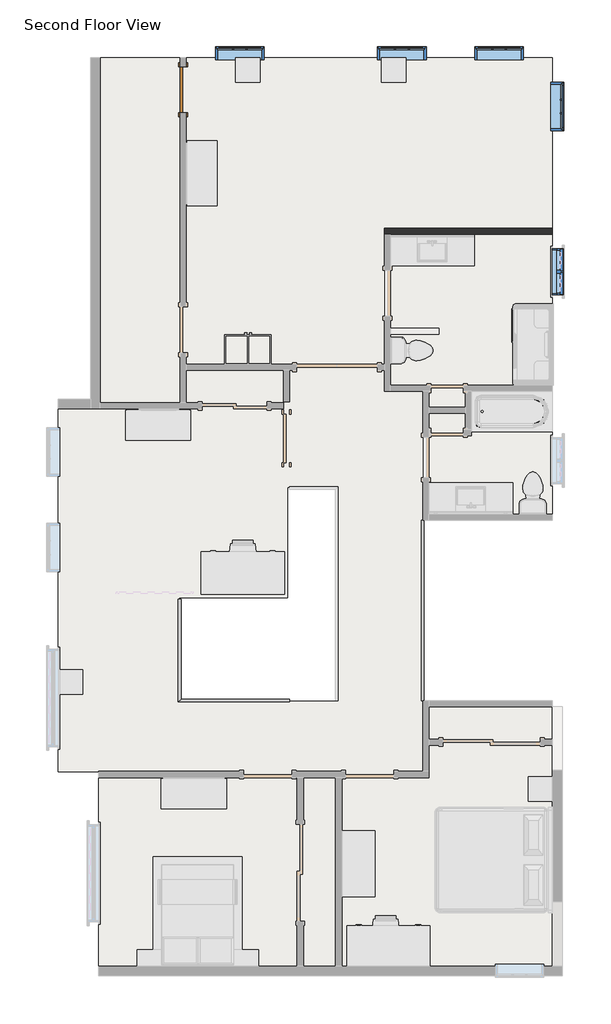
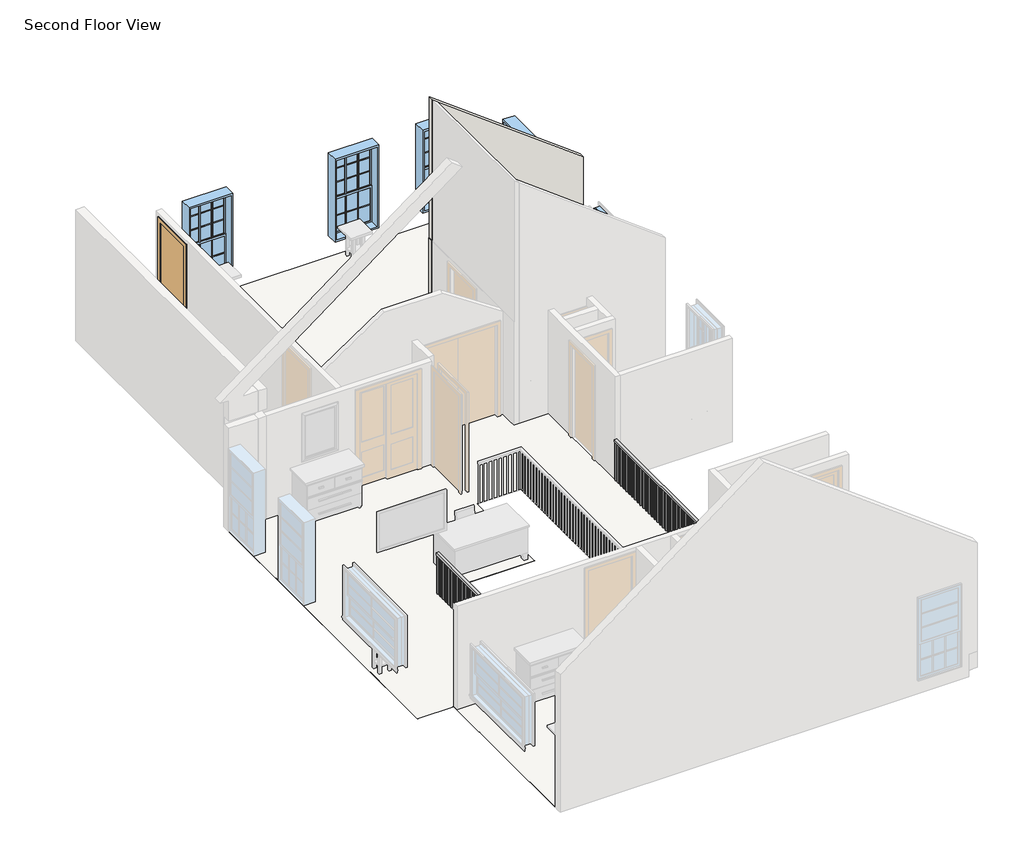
# One storey, part 2 of 3: 5 windows, 2 railings, 2 slabs, 1 door, 1 wall.
"""IFC4 building model written with IfcOpenShell, lengths in millimetres."""

from ifc_helpers import new_model, si_unit, frame, origin, place, context, project, spatial, polyline, outline, extrude, faceted_brep, transform, mapped, element, save
from components import door_70e57c00, window_96_lite_window_with_shutters_3850_single_hung_3x3_51791338, window_2368842e

model = new_model("IFC4")

# Units and contexts
model_context = context("Model", 3, world=origin())
ifc_project = project(units=[si_unit("LENGTHUNIT", "METRE", prefix="MILLI")], contexts=[model_context])

# Site, building, storey
site = spatial("IfcSite", under=ifc_project)
building = spatial("IfcBuilding", under=site)
storey = spatial("IfcBuildingStorey", under=building, Name="Second Floor View", Elevation=2590.8)

# Door
placement = place(None, origin())
door_shape = door_70e57c00(model_context)
element("IfcDoor", 1, ObjectType="Single-Flush : 34\" x 84\"", at=placement, inside=storey, context=model_context, shape_type="MappedRepresentation", body=[
    mapped(door_shape, transform((-8202.0230992, 9486.6797697, 2590.8), x_axis=(0.0, 1.0, 0.0), y_axis=(-1.0, 0.0, 0.0), z_axis=(0.0, 0.0, 1.0))),
])

# Railings
element("IfcRailing", 2, ObjectType="Handrail - Rectangular", at=placement, inside=storey, context=model_context, shape_type="SweptSolid", body=[
    extrude(outline(polyline([(-3718.9230992, 1388.8422697), (-3668.1230992, 1388.8422697), (-3668.1230992, -1995.7077303), (-3718.9230992, -1995.7077303), (-3718.9230992, 1388.8422697)])), frame((0.0, 0.0, 3454.4), z_axis=(0.0, 0.0, 1.0), x_axis=(1.0, 0.0, 0.0)), (0.0, 0.0, 1.0), 50.8),
    extrude(outline(polyline([(-3703.0480992, -1954.4327303), (-3683.9980992, -1954.4327303), (-3683.9980992, -1973.4827303), (-3703.0480992, -1973.4827303), (-3703.0480992, -1954.4327303)])), frame((0.0, 0.0, 2590.8), z_axis=(0.0, 0.0, 1.0), x_axis=(1.0, 0.0, 0.0)), (0.0, 0.0, 1.0), 863.6),
    extrude(outline(polyline([(-3703.0480992, -1852.8327303), (-3683.9980992, -1852.8327303), (-3683.9980992, -1871.8827303), (-3703.0480992, -1871.8827303), (-3703.0480992, -1852.8327303)])), frame((0.0, 0.0, 2590.8), z_axis=(0.0, 0.0, 1.0), x_axis=(1.0, 0.0, 0.0)), (0.0, 0.0, 1.0), 863.6),
    extrude(outline(polyline([(-3703.0480992, -1751.2327303), (-3683.9980992, -1751.2327303), (-3683.9980992, -1770.2827303), (-3703.0480992, -1770.2827303), (-3703.0480992, -1751.2327303)])), frame((0.0, 0.0, 2590.8), z_axis=(0.0, 0.0, 1.0), x_axis=(1.0, 0.0, 0.0)), (0.0, 0.0, 1.0), 863.6),
    extrude(outline(polyline([(-3703.0480992, -1649.6327303), (-3683.9980992, -1649.6327303), (-3683.9980992, -1668.6827303), (-3703.0480992, -1668.6827303), (-3703.0480992, -1649.6327303)])), frame((0.0, 0.0, 2590.8), z_axis=(0.0, 0.0, 1.0), x_axis=(1.0, 0.0, 0.0)), (0.0, 0.0, 1.0), 863.6),
    extrude(outline(polyline([(-3703.0480992, -1548.0327303), (-3683.9980992, -1548.0327303), (-3683.9980992, -1567.0827303), (-3703.0480992, -1567.0827303), (-3703.0480992, -1548.0327303)])), frame((0.0, 0.0, 2590.8), z_axis=(0.0, 0.0, 1.0), x_axis=(1.0, 0.0, 0.0)), (0.0, 0.0, 1.0), 863.6),
    extrude(outline(polyline([(-3703.0480992, -1446.4327303), (-3683.9980992, -1446.4327303), (-3683.9980992, -1465.4827303), (-3703.0480992, -1465.4827303), (-3703.0480992, -1446.4327303)])), frame((0.0, 0.0, 2590.8), z_axis=(0.0, 0.0, 1.0), x_axis=(1.0, 0.0, 0.0)), (0.0, 0.0, 1.0), 863.6),
    extrude(outline(polyline([(-3703.0480992, -1344.8327303), (-3683.9980992, -1344.8327303), (-3683.9980992, -1363.8827303), (-3703.0480992, -1363.8827303), (-3703.0480992, -1344.8327303)])), frame((0.0, 0.0, 2590.8), z_axis=(0.0, 0.0, 1.0), x_axis=(1.0, 0.0, 0.0)), (0.0, 0.0, 1.0), 863.6),
    extrude(outline(polyline([(-3703.0480992, -1243.2327303), (-3683.9980992, -1243.2327303), (-3683.9980992, -1262.2827303), (-3703.0480992, -1262.2827303), (-3703.0480992, -1243.2327303)])), frame((0.0, 0.0, 2590.8), z_axis=(0.0, 0.0, 1.0), x_axis=(1.0, 0.0, 0.0)), (0.0, 0.0, 1.0), 863.6),
    extrude(outline(polyline([(-3703.0480992, -1141.6327303), (-3683.9980992, -1141.6327303), (-3683.9980992, -1160.6827303), (-3703.0480992, -1160.6827303), (-3703.0480992, -1141.6327303)])), frame((0.0, 0.0, 2590.8), z_axis=(0.0, 0.0, 1.0), x_axis=(1.0, 0.0, 0.0)), (0.0, 0.0, 1.0), 863.6),
    extrude(outline(polyline([(-3703.0480992, -1040.0327303), (-3683.9980992, -1040.0327303), (-3683.9980992, -1059.0827303), (-3703.0480992, -1059.0827303), (-3703.0480992, -1040.0327303)])), frame((0.0, 0.0, 2590.8), z_axis=(0.0, 0.0, 1.0), x_axis=(1.0, 0.0, 0.0)), (0.0, 0.0, 1.0), 863.6),
    extrude(outline(polyline([(-3703.0480992, -938.4327303), (-3683.9980992, -938.4327303), (-3683.9980992, -957.4827303), (-3703.0480992, -957.4827303), (-3703.0480992, -938.4327303)])), frame((0.0, 0.0, 2590.8), z_axis=(0.0, 0.0, 1.0), x_axis=(1.0, 0.0, 0.0)), (0.0, 0.0, 1.0), 863.6),
    extrude(outline(polyline([(-3703.0480992, -836.8327303), (-3683.9980992, -836.8327303), (-3683.9980992, -855.8827303), (-3703.0480992, -855.8827303), (-3703.0480992, -836.8327303)])), frame((0.0, 0.0, 2590.8), z_axis=(0.0, 0.0, 1.0), x_axis=(1.0, 0.0, 0.0)), (0.0, 0.0, 1.0), 863.6),
    extrude(outline(polyline([(-3703.0480992, -735.2327303), (-3683.9980992, -735.2327303), (-3683.9980992, -754.2827303), (-3703.0480992, -754.2827303), (-3703.0480992, -735.2327303)])), frame((0.0, 0.0, 2590.8), z_axis=(0.0, 0.0, 1.0), x_axis=(1.0, 0.0, 0.0)), (0.0, 0.0, 1.0), 863.6),
    extrude(outline(polyline([(-3703.0480992, -633.6327303), (-3683.9980992, -633.6327303), (-3683.9980992, -652.6827303), (-3703.0480992, -652.6827303), (-3703.0480992, -633.6327303)])), frame((0.0, 0.0, 2590.8), z_axis=(0.0, 0.0, 1.0), x_axis=(1.0, 0.0, 0.0)), (0.0, 0.0, 1.0), 863.6),
    extrude(outline(polyline([(-3703.0480992, -532.0327303), (-3683.9980992, -532.0327303), (-3683.9980992, -551.0827303), (-3703.0480992, -551.0827303), (-3703.0480992, -532.0327303)])), frame((0.0, 0.0, 2590.8), z_axis=(0.0, 0.0, 1.0), x_axis=(1.0, 0.0, 0.0)), (0.0, 0.0, 1.0), 863.6),
    extrude(outline(polyline([(-3703.0480992, -430.4327303), (-3683.9980992, -430.4327303), (-3683.9980992, -449.4827303), (-3703.0480992, -449.4827303), (-3703.0480992, -430.4327303)])), frame((0.0, 0.0, 2590.8), z_axis=(0.0, 0.0, 1.0), x_axis=(1.0, 0.0, 0.0)), (0.0, 0.0, 1.0), 863.6),
    extrude(outline(polyline([(-3703.0480992, -328.8327303), (-3683.9980992, -328.8327303), (-3683.9980992, -347.8827303), (-3703.0480992, -347.8827303), (-3703.0480992, -328.8327303)])), frame((0.0, 0.0, 2590.8), z_axis=(0.0, 0.0, 1.0), x_axis=(1.0, 0.0, 0.0)), (0.0, 0.0, 1.0), 863.6),
    extrude(outline(polyline([(-3703.0480992, -227.2327303), (-3683.9980992, -227.2327303), (-3683.9980992, -246.2827303), (-3703.0480992, -246.2827303), (-3703.0480992, -227.2327303)])), frame((0.0, 0.0, 2590.8), z_axis=(0.0, 0.0, 1.0), x_axis=(1.0, 0.0, 0.0)), (0.0, 0.0, 1.0), 863.6),
    extrude(outline(polyline([(-3703.0480992, -125.6327303), (-3683.9980992, -125.6327303), (-3683.9980992, -144.6827303), (-3703.0480992, -144.6827303), (-3703.0480992, -125.6327303)])), frame((0.0, 0.0, 2590.8), z_axis=(0.0, 0.0, 1.0), x_axis=(1.0, 0.0, 0.0)), (0.0, 0.0, 1.0), 863.6),
    extrude(outline(polyline([(-3703.0480992, -24.0327303), (-3683.9980992, -24.0327303), (-3683.9980992, -43.0827303), (-3703.0480992, -43.0827303), (-3703.0480992, -24.0327303)])), frame((0.0, 0.0, 2590.8), z_axis=(0.0, 0.0, 1.0), x_axis=(1.0, 0.0, 0.0)), (0.0, 0.0, 1.0), 863.6),
    extrude(outline(polyline([(-3703.0480992, 77.5672697), (-3683.9980992, 77.5672697), (-3683.9980992, 58.5172697), (-3703.0480992, 58.5172697), (-3703.0480992, 77.5672697)])), frame((0.0, 0.0, 2590.8), z_axis=(0.0, 0.0, 1.0), x_axis=(1.0, 0.0, 0.0)), (0.0, 0.0, 1.0), 863.6),
    extrude(outline(polyline([(-3703.0480992, 179.1672697), (-3683.9980992, 179.1672697), (-3683.9980992, 160.1172697), (-3703.0480992, 160.1172697), (-3703.0480992, 179.1672697)])), frame((0.0, 0.0, 2590.8), z_axis=(0.0, 0.0, 1.0), x_axis=(1.0, 0.0, 0.0)), (0.0, 0.0, 1.0), 863.6),
    extrude(outline(polyline([(-3703.0480992, 280.7672697), (-3683.9980992, 280.7672697), (-3683.9980992, 261.7172697), (-3703.0480992, 261.7172697), (-3703.0480992, 280.7672697)])), frame((0.0, 0.0, 2590.8), z_axis=(0.0, 0.0, 1.0), x_axis=(1.0, 0.0, 0.0)), (0.0, 0.0, 1.0), 863.6),
    extrude(outline(polyline([(-3703.0480992, 382.3672697), (-3683.9980992, 382.3672697), (-3683.9980992, 363.3172697), (-3703.0480992, 363.3172697), (-3703.0480992, 382.3672697)])), frame((0.0, 0.0, 2590.8), z_axis=(0.0, 0.0, 1.0), x_axis=(1.0, 0.0, 0.0)), (0.0, 0.0, 1.0), 863.6),
    extrude(outline(polyline([(-3703.0480992, 483.9672697), (-3683.9980992, 483.9672697), (-3683.9980992, 464.9172697), (-3703.0480992, 464.9172697), (-3703.0480992, 483.9672697)])), frame((0.0, 0.0, 2590.8), z_axis=(0.0, 0.0, 1.0), x_axis=(1.0, 0.0, 0.0)), (0.0, 0.0, 1.0), 863.6),
    extrude(outline(polyline([(-3703.0480992, 585.5672697), (-3683.9980992, 585.5672697), (-3683.9980992, 566.5172697), (-3703.0480992, 566.5172697), (-3703.0480992, 585.5672697)])), frame((0.0, 0.0, 2590.8), z_axis=(0.0, 0.0, 1.0), x_axis=(1.0, 0.0, 0.0)), (0.0, 0.0, 1.0), 863.6),
    extrude(outline(polyline([(-3703.0480992, 687.1672697), (-3683.9980992, 687.1672697), (-3683.9980992, 668.1172697), (-3703.0480992, 668.1172697), (-3703.0480992, 687.1672697)])), frame((0.0, 0.0, 2590.8), z_axis=(0.0, 0.0, 1.0), x_axis=(1.0, 0.0, 0.0)), (0.0, 0.0, 1.0), 863.6),
    extrude(outline(polyline([(-3703.0480992, 788.7672697), (-3683.9980992, 788.7672697), (-3683.9980992, 769.7172697), (-3703.0480992, 769.7172697), (-3703.0480992, 788.7672697)])), frame((0.0, 0.0, 2590.8), z_axis=(0.0, 0.0, 1.0), x_axis=(1.0, 0.0, 0.0)), (0.0, 0.0, 1.0), 863.6),
    extrude(outline(polyline([(-3703.0480992, 890.3672697), (-3683.9980992, 890.3672697), (-3683.9980992, 871.3172697), (-3703.0480992, 871.3172697), (-3703.0480992, 890.3672697)])), frame((0.0, 0.0, 2590.8), z_axis=(0.0, 0.0, 1.0), x_axis=(1.0, 0.0, 0.0)), (0.0, 0.0, 1.0), 863.6),
    extrude(outline(polyline([(-3703.0480992, 991.9672697), (-3683.9980992, 991.9672697), (-3683.9980992, 972.9172697), (-3703.0480992, 972.9172697), (-3703.0480992, 991.9672697)])), frame((0.0, 0.0, 2590.8), z_axis=(0.0, 0.0, 1.0), x_axis=(1.0, 0.0, 0.0)), (0.0, 0.0, 1.0), 863.6),
    extrude(outline(polyline([(-3703.0480992, 1093.5672697), (-3683.9980992, 1093.5672697), (-3683.9980992, 1074.5172697), (-3703.0480992, 1074.5172697), (-3703.0480992, 1093.5672697)])), frame((0.0, 0.0, 2590.8), z_axis=(0.0, 0.0, 1.0), x_axis=(1.0, 0.0, 0.0)), (0.0, 0.0, 1.0), 863.6),
    extrude(outline(polyline([(-3703.0480992, 1195.1672697), (-3683.9980992, 1195.1672697), (-3683.9980992, 1176.1172697), (-3703.0480992, 1176.1172697), (-3703.0480992, 1195.1672697)])), frame((0.0, 0.0, 2590.8), z_axis=(0.0, 0.0, 1.0), x_axis=(1.0, 0.0, 0.0)), (0.0, 0.0, 1.0), 863.6),
    extrude(outline(polyline([(-3703.0480992, 1296.7672697), (-3683.9980992, 1296.7672697), (-3683.9980992, 1277.7172697), (-3703.0480992, 1277.7172697), (-3703.0480992, 1296.7672697)])), frame((0.0, 0.0, 2590.8), z_axis=(0.0, 0.0, 1.0), x_axis=(1.0, 0.0, 0.0)), (0.0, 0.0, 1.0), 863.6),
    extrude(outline(polyline([(-3703.0480992, -1976.6577303), (-3683.9980992, -1976.6577303), (-3683.9980992, -1995.7077303), (-3703.0480992, -1995.7077303), (-3703.0480992, -1976.6577303)])), frame((0.0, 0.0, 2590.8), z_axis=(0.0, 0.0, 1.0), x_axis=(1.0, 0.0, 0.0)), (0.0, 0.0, 1.0), 863.6),
    extrude(outline(polyline([(-3703.0480992, 1388.8422697), (-3683.9980992, 1388.8422697), (-3683.9980992, 1369.7922697), (-3703.0480992, 1369.7922697), (-3703.0480992, 1388.8422697)])), frame((0.0, 0.0, 2590.8), z_axis=(0.0, 0.0, 1.0), x_axis=(1.0, 0.0, 0.0)), (0.0, 0.0, 1.0), 863.6),
])
element("IfcRailing", 3, ObjectType="Handrail - Rectangular", at=placement, inside=storey, context=model_context, shape_type="SolidModel", body=[
    faceted_brep([(-8240.1230992, -93.8827303, 3505.2), (-8240.1230992, -93.8827303, 3454.4), (-8290.9230992, -93.8827303, 3454.4), (-8290.9230992, -93.8827303, 3505.2), (-8240.1230992, -1970.3077303, 3505.2), (-8240.1230992, -1970.3077303, 3454.4), (-8290.9230992, -2021.1077303, 3454.4), (-8290.9230992, -2021.1077303, 3505.2), (-6201.7730992, -1970.3077303, 3505.2), (-6201.7730992, -2021.1077303, 3505.2), (-6201.7730992, -2021.1077303, 3454.4), (-6201.7730992, -1970.3077303, 3454.4)], [[[0, 1, 2, 3]], [[1, 0, 4, 5]], [[2, 1, 5, 6]], [[3, 2, 6, 7]], [[0, 3, 7, 4]], [[8, 9, 10, 11]], [[5, 4, 8, 11]], [[6, 5, 11, 10]], [[7, 6, 10, 9]], [[4, 7, 9, 8]]]),
    extrude(outline(polyline([(-6243.0480992, -2005.2327303), (-6243.0480992, -1986.1827303), (-6223.9980992, -1986.1827303), (-6223.9980992, -2005.2327303), (-6243.0480992, -2005.2327303)])), frame((0.0, 0.0, 2590.8), z_axis=(0.0, 0.0, 1.0), x_axis=(1.0, 0.0, 0.0)), (0.0, 0.0, 1.0), 863.6),
    extrude(outline(polyline([(-6344.6480992, -2005.2327303), (-6344.6480992, -1986.1827303), (-6325.5980992, -1986.1827303), (-6325.5980992, -2005.2327303), (-6344.6480992, -2005.2327303)])), frame((0.0, 0.0, 2590.8), z_axis=(0.0, 0.0, 1.0), x_axis=(1.0, 0.0, 0.0)), (0.0, 0.0, 1.0), 863.6),
    extrude(outline(polyline([(-6446.2480992, -2005.2327303), (-6446.2480992, -1986.1827303), (-6427.1980992, -1986.1827303), (-6427.1980992, -2005.2327303), (-6446.2480992, -2005.2327303)])), frame((0.0, 0.0, 2590.8), z_axis=(0.0, 0.0, 1.0), x_axis=(1.0, 0.0, 0.0)), (0.0, 0.0, 1.0), 863.6),
    extrude(outline(polyline([(-6547.8480992, -2005.2327303), (-6547.8480992, -1986.1827303), (-6528.7980992, -1986.1827303), (-6528.7980992, -2005.2327303), (-6547.8480992, -2005.2327303)])), frame((0.0, 0.0, 2590.8), z_axis=(0.0, 0.0, 1.0), x_axis=(1.0, 0.0, 0.0)), (0.0, 0.0, 1.0), 863.6),
    extrude(outline(polyline([(-6649.4480992, -2005.2327303), (-6649.4480992, -1986.1827303), (-6630.3980992, -1986.1827303), (-6630.3980992, -2005.2327303), (-6649.4480992, -2005.2327303)])), frame((0.0, 0.0, 2590.8), z_axis=(0.0, 0.0, 1.0), x_axis=(1.0, 0.0, 0.0)), (0.0, 0.0, 1.0), 863.6),
    extrude(outline(polyline([(-6751.0480992, -2005.2327303), (-6751.0480992, -1986.1827303), (-6731.9980992, -1986.1827303), (-6731.9980992, -2005.2327303), (-6751.0480992, -2005.2327303)])), frame((0.0, 0.0, 2590.8), z_axis=(0.0, 0.0, 1.0), x_axis=(1.0, 0.0, 0.0)), (0.0, 0.0, 1.0), 863.6),
    extrude(outline(polyline([(-6852.6480992, -2005.2327303), (-6852.6480992, -1986.1827303), (-6833.5980992, -1986.1827303), (-6833.5980992, -2005.2327303), (-6852.6480992, -2005.2327303)])), frame((0.0, 0.0, 2590.8), z_axis=(0.0, 0.0, 1.0), x_axis=(1.0, 0.0, 0.0)), (0.0, 0.0, 1.0), 863.6),
    extrude(outline(polyline([(-6954.2480992, -2005.2327303), (-6954.2480992, -1986.1827303), (-6935.1980992, -1986.1827303), (-6935.1980992, -2005.2327303), (-6954.2480992, -2005.2327303)])), frame((0.0, 0.0, 2590.8), z_axis=(0.0, 0.0, 1.0), x_axis=(1.0, 0.0, 0.0)), (0.0, 0.0, 1.0), 863.6),
    extrude(outline(polyline([(-7055.8480992, -2005.2327303), (-7055.8480992, -1986.1827303), (-7036.7980992, -1986.1827303), (-7036.7980992, -2005.2327303), (-7055.8480992, -2005.2327303)])), frame((0.0, 0.0, 2590.8), z_axis=(0.0, 0.0, 1.0), x_axis=(1.0, 0.0, 0.0)), (0.0, 0.0, 1.0), 863.6),
    extrude(outline(polyline([(-7157.4480992, -2005.2327303), (-7157.4480992, -1986.1827303), (-7138.3980992, -1986.1827303), (-7138.3980992, -2005.2327303), (-7157.4480992, -2005.2327303)])), frame((0.0, 0.0, 2590.8), z_axis=(0.0, 0.0, 1.0), x_axis=(1.0, 0.0, 0.0)), (0.0, 0.0, 1.0), 863.6),
    extrude(outline(polyline([(-7259.0480992, -2005.2327303), (-7259.0480992, -1986.1827303), (-7239.9980992, -1986.1827303), (-7239.9980992, -2005.2327303), (-7259.0480992, -2005.2327303)])), frame((0.0, 0.0, 2590.8), z_axis=(0.0, 0.0, 1.0), x_axis=(1.0, 0.0, 0.0)), (0.0, 0.0, 1.0), 863.6),
    extrude(outline(polyline([(-7360.6480992, -2005.2327303), (-7360.6480992, -1986.1827303), (-7341.5980992, -1986.1827303), (-7341.5980992, -2005.2327303), (-7360.6480992, -2005.2327303)])), frame((0.0, 0.0, 2590.8), z_axis=(0.0, 0.0, 1.0), x_axis=(1.0, 0.0, 0.0)), (0.0, 0.0, 1.0), 863.6),
    extrude(outline(polyline([(-7462.2480992, -2005.2327303), (-7462.2480992, -1986.1827303), (-7443.1980992, -1986.1827303), (-7443.1980992, -2005.2327303), (-7462.2480992, -2005.2327303)])), frame((0.0, 0.0, 2590.8), z_axis=(0.0, 0.0, 1.0), x_axis=(1.0, 0.0, 0.0)), (0.0, 0.0, 1.0), 863.6),
    extrude(outline(polyline([(-7563.8480992, -2005.2327303), (-7563.8480992, -1986.1827303), (-7544.7980992, -1986.1827303), (-7544.7980992, -2005.2327303), (-7563.8480992, -2005.2327303)])), frame((0.0, 0.0, 2590.8), z_axis=(0.0, 0.0, 1.0), x_axis=(1.0, 0.0, 0.0)), (0.0, 0.0, 1.0), 863.6),
    extrude(outline(polyline([(-7665.4480992, -2005.2327303), (-7665.4480992, -1986.1827303), (-7646.3980992, -1986.1827303), (-7646.3980992, -2005.2327303), (-7665.4480992, -2005.2327303)])), frame((0.0, 0.0, 2590.8), z_axis=(0.0, 0.0, 1.0), x_axis=(1.0, 0.0, 0.0)), (0.0, 0.0, 1.0), 863.6),
    extrude(outline(polyline([(-7767.0480992, -2005.2327303), (-7767.0480992, -1986.1827303), (-7747.9980992, -1986.1827303), (-7747.9980992, -2005.2327303), (-7767.0480992, -2005.2327303)])), frame((0.0, 0.0, 2590.8), z_axis=(0.0, 0.0, 1.0), x_axis=(1.0, 0.0, 0.0)), (0.0, 0.0, 1.0), 863.6),
    extrude(outline(polyline([(-7868.6480992, -2005.2327303), (-7868.6480992, -1986.1827303), (-7849.5980992, -1986.1827303), (-7849.5980992, -2005.2327303), (-7868.6480992, -2005.2327303)])), frame((0.0, 0.0, 2590.8), z_axis=(0.0, 0.0, 1.0), x_axis=(1.0, 0.0, 0.0)), (0.0, 0.0, 1.0), 863.6),
    extrude(outline(polyline([(-7970.2480992, -2005.2327303), (-7970.2480992, -1986.1827303), (-7951.1980992, -1986.1827303), (-7951.1980992, -2005.2327303), (-7970.2480992, -2005.2327303)])), frame((0.0, 0.0, 2590.8), z_axis=(0.0, 0.0, 1.0), x_axis=(1.0, 0.0, 0.0)), (0.0, 0.0, 1.0), 863.6),
    extrude(outline(polyline([(-8071.8480992, -2005.2327303), (-8071.8480992, -1986.1827303), (-8052.7980992, -1986.1827303), (-8052.7980992, -2005.2327303), (-8071.8480992, -2005.2327303)])), frame((0.0, 0.0, 2590.8), z_axis=(0.0, 0.0, 1.0), x_axis=(1.0, 0.0, 0.0)), (0.0, 0.0, 1.0), 863.6),
    extrude(outline(polyline([(-8173.4480992, -2005.2327303), (-8173.4480992, -1986.1827303), (-8154.3980992, -1986.1827303), (-8154.3980992, -2005.2327303), (-8173.4480992, -2005.2327303)])), frame((0.0, 0.0, 2590.8), z_axis=(0.0, 0.0, 1.0), x_axis=(1.0, 0.0, 0.0)), (0.0, 0.0, 1.0), 863.6),
    extrude(outline(polyline([(-8275.0480992, -1913.1577303), (-8255.9980992, -1913.1577303), (-8255.9980992, -1932.2077303), (-8275.0480992, -1932.2077303), (-8275.0480992, -1913.1577303)])), frame((0.0, 0.0, 2590.8), z_axis=(0.0, 0.0, 1.0), x_axis=(1.0, 0.0, 0.0)), (0.0, 0.0, 1.0), 863.6),
    extrude(outline(polyline([(-8275.0480992, -1811.5577303), (-8255.9980992, -1811.5577303), (-8255.9980992, -1830.6077303), (-8275.0480992, -1830.6077303), (-8275.0480992, -1811.5577303)])), frame((0.0, 0.0, 2590.8), z_axis=(0.0, 0.0, 1.0), x_axis=(1.0, 0.0, 0.0)), (0.0, 0.0, 1.0), 863.6),
    extrude(outline(polyline([(-8275.0480992, -1709.9577303), (-8255.9980992, -1709.9577303), (-8255.9980992, -1729.0077303), (-8275.0480992, -1729.0077303), (-8275.0480992, -1709.9577303)])), frame((0.0, 0.0, 2590.8), z_axis=(0.0, 0.0, 1.0), x_axis=(1.0, 0.0, 0.0)), (0.0, 0.0, 1.0), 863.6),
    extrude(outline(polyline([(-8275.0480992, -1608.3577303), (-8255.9980992, -1608.3577303), (-8255.9980992, -1627.4077303), (-8275.0480992, -1627.4077303), (-8275.0480992, -1608.3577303)])), frame((0.0, 0.0, 2590.8), z_axis=(0.0, 0.0, 1.0), x_axis=(1.0, 0.0, 0.0)), (0.0, 0.0, 1.0), 863.6),
    extrude(outline(polyline([(-8275.0480992, -1506.7577303), (-8255.9980992, -1506.7577303), (-8255.9980992, -1525.8077303), (-8275.0480992, -1525.8077303), (-8275.0480992, -1506.7577303)])), frame((0.0, 0.0, 2590.8), z_axis=(0.0, 0.0, 1.0), x_axis=(1.0, 0.0, 0.0)), (0.0, 0.0, 1.0), 863.6),
    extrude(outline(polyline([(-8275.0480992, -1405.1577303), (-8255.9980992, -1405.1577303), (-8255.9980992, -1424.2077303), (-8275.0480992, -1424.2077303), (-8275.0480992, -1405.1577303)])), frame((0.0, 0.0, 2590.8), z_axis=(0.0, 0.0, 1.0), x_axis=(1.0, 0.0, 0.0)), (0.0, 0.0, 1.0), 863.6),
    extrude(outline(polyline([(-8275.0480992, -1303.5577303), (-8255.9980992, -1303.5577303), (-8255.9980992, -1322.6077303), (-8275.0480992, -1322.6077303), (-8275.0480992, -1303.5577303)])), frame((0.0, 0.0, 2590.8), z_axis=(0.0, 0.0, 1.0), x_axis=(1.0, 0.0, 0.0)), (0.0, 0.0, 1.0), 863.6),
    extrude(outline(polyline([(-8275.0480992, -1201.9577303), (-8255.9980992, -1201.9577303), (-8255.9980992, -1221.0077303), (-8275.0480992, -1221.0077303), (-8275.0480992, -1201.9577303)])), frame((0.0, 0.0, 2590.8), z_axis=(0.0, 0.0, 1.0), x_axis=(1.0, 0.0, 0.0)), (0.0, 0.0, 1.0), 863.6),
    extrude(outline(polyline([(-8275.0480992, -1100.3577303), (-8255.9980992, -1100.3577303), (-8255.9980992, -1119.4077303), (-8275.0480992, -1119.4077303), (-8275.0480992, -1100.3577303)])), frame((0.0, 0.0, 2590.8), z_axis=(0.0, 0.0, 1.0), x_axis=(1.0, 0.0, 0.0)), (0.0, 0.0, 1.0), 863.6),
    extrude(outline(polyline([(-8275.0480992, -998.7577303), (-8255.9980992, -998.7577303), (-8255.9980992, -1017.8077303), (-8275.0480992, -1017.8077303), (-8275.0480992, -998.7577303)])), frame((0.0, 0.0, 2590.8), z_axis=(0.0, 0.0, 1.0), x_axis=(1.0, 0.0, 0.0)), (0.0, 0.0, 1.0), 863.6),
    extrude(outline(polyline([(-8275.0480992, -897.1577303), (-8255.9980992, -897.1577303), (-8255.9980992, -916.2077303), (-8275.0480992, -916.2077303), (-8275.0480992, -897.1577303)])), frame((0.0, 0.0, 2590.8), z_axis=(0.0, 0.0, 1.0), x_axis=(1.0, 0.0, 0.0)), (0.0, 0.0, 1.0), 863.6),
    extrude(outline(polyline([(-8275.0480992, -795.5577303), (-8255.9980992, -795.5577303), (-8255.9980992, -814.6077303), (-8275.0480992, -814.6077303), (-8275.0480992, -795.5577303)])), frame((0.0, 0.0, 2590.8), z_axis=(0.0, 0.0, 1.0), x_axis=(1.0, 0.0, 0.0)), (0.0, 0.0, 1.0), 863.6),
    extrude(outline(polyline([(-8275.0480992, -693.9577303), (-8255.9980992, -693.9577303), (-8255.9980992, -713.0077303), (-8275.0480992, -713.0077303), (-8275.0480992, -693.9577303)])), frame((0.0, 0.0, 2590.8), z_axis=(0.0, 0.0, 1.0), x_axis=(1.0, 0.0, 0.0)), (0.0, 0.0, 1.0), 863.6),
    extrude(outline(polyline([(-8275.0480992, -592.3577303), (-8255.9980992, -592.3577303), (-8255.9980992, -611.4077303), (-8275.0480992, -611.4077303), (-8275.0480992, -592.3577303)])), frame((0.0, 0.0, 2590.8), z_axis=(0.0, 0.0, 1.0), x_axis=(1.0, 0.0, 0.0)), (0.0, 0.0, 1.0), 863.6),
    extrude(outline(polyline([(-8275.0480992, -490.7577303), (-8255.9980992, -490.7577303), (-8255.9980992, -509.8077303), (-8275.0480992, -509.8077303), (-8275.0480992, -490.7577303)])), frame((0.0, 0.0, 2590.8), z_axis=(0.0, 0.0, 1.0), x_axis=(1.0, 0.0, 0.0)), (0.0, 0.0, 1.0), 863.6),
    extrude(outline(polyline([(-8275.0480992, -389.1577303), (-8255.9980992, -389.1577303), (-8255.9980992, -408.2077303), (-8275.0480992, -408.2077303), (-8275.0480992, -389.1577303)])), frame((0.0, 0.0, 2590.8), z_axis=(0.0, 0.0, 1.0), x_axis=(1.0, 0.0, 0.0)), (0.0, 0.0, 1.0), 863.6),
    extrude(outline(polyline([(-8275.0480992, -287.5577303), (-8255.9980992, -287.5577303), (-8255.9980992, -306.6077303), (-8275.0480992, -306.6077303), (-8275.0480992, -287.5577303)])), frame((0.0, 0.0, 2590.8), z_axis=(0.0, 0.0, 1.0), x_axis=(1.0, 0.0, 0.0)), (0.0, 0.0, 1.0), 863.6),
    extrude(outline(polyline([(-8275.0480992, -185.9577303), (-8255.9980992, -185.9577303), (-8255.9980992, -205.0077303), (-8275.0480992, -205.0077303), (-8275.0480992, -185.9577303)])), frame((0.0, 0.0, 2590.8), z_axis=(0.0, 0.0, 1.0), x_axis=(1.0, 0.0, 0.0)), (0.0, 0.0, 1.0), 863.6),
    extrude(outline(polyline([(-8275.0480992, -1986.1827303), (-8255.9980992, -1986.1827303), (-8255.9980992, -2005.2327303), (-8275.0480992, -2005.2327303), (-8275.0480992, -1986.1827303)])), frame((0.0, 0.0, 2590.8), z_axis=(0.0, 0.0, 1.0), x_axis=(1.0, 0.0, 0.0)), (0.0, 0.0, 1.0), 863.6),
    extrude(outline(polyline([(-6220.8230992, -2005.2327303), (-6220.8230992, -1986.1827303), (-6201.7730992, -1986.1827303), (-6201.7730992, -2005.2327303), (-6220.8230992, -2005.2327303)])), frame((0.0, 0.0, 2590.8), z_axis=(0.0, 0.0, 1.0), x_axis=(1.0, 0.0, 0.0)), (0.0, 0.0, 1.0), 863.6),
    extrude(outline(polyline([(-8275.0480992, -93.8827303), (-8255.9980992, -93.8827303), (-8255.9980992, -112.9327303), (-8275.0480992, -112.9327303), (-8275.0480992, -93.8827303)])), frame((0.0, 0.0, 2590.8), z_axis=(0.0, 0.0, 1.0), x_axis=(1.0, 0.0, 0.0)), (0.0, 0.0, 1.0), 863.6),
])

# Slabs
element("IfcSlab", 4, ObjectType="Beige Carpet", at=placement, inside=storey, context=model_context, shape_type="SweptSolid", body=[
    extrude(outline(polyline([(-10551.5230992, 3484.3422697), (-9760.9480992, 3484.3422697), (-9760.9480992, 10081.9922697), (-1255.1230992, 10081.9922697), (-1255.1230992, 6881.5922697), (-4417.4230992, 6881.5922697), (-4417.4230992, 3817.7172697), (-3693.5230992, 3817.7172697), (-3693.5230992, -2110.0077303), (-1255.1230992, -2110.0077303), (-1255.1230992, -6986.8077303), (-9789.5230992, -6986.8077303), (-9789.5230992, -3329.2077303), (-10551.5230992, -3329.2077303), (-10551.5230992, 3484.3422697)]), holes=[polyline([(-8265.5230992, -1995.7077303), (-5312.7730992, -1995.7077303), (-5312.7730992, 2000.0297697), (-6227.1730992, 2000.0297697), (-6227.1730992, -74.8327303), (-8265.5230992, -74.8327303), (-8265.5230992, -1995.7077303)])]), frame((0.0, 0.0, 2590.8), z_axis=(0.0, 0.0, 1.0), x_axis=(1.0, 0.0, 0.0)), (0.0, 0.0, 1.0), 6.35),
])
element("IfcSlab", 5, ObjectType="Tile", at=placement, inside=storey, context=model_context, shape_type="SweptSolid", body=[
    extrude(outline(polyline([(-1255.1230992, 6767.2922697), (-1255.1230992, 1503.1422697), (-3579.2230992, 1503.1422697), (-3579.2230992, 3932.0172697), (-4303.1230992, 3932.0172697), (-4303.1230992, 6767.2922697), (-1255.1230992, 6767.2922697)])), frame((0.0, 0.0, 2590.8), z_axis=(0.0, 0.0, 1.0), x_axis=(1.0, 0.0, 0.0)), (0.0, 0.0, 1.0), 6.35),
])

# Wall
element("IfcWall", 6, ObjectType="Interior - 4 1/2\" Partition", at=placement, inside=storey, context=model_context, shape_type="Brep", body=[
    faceted_brep([(-4417.4230992, 6767.2922697, 2590.8), (-4303.1230992, 6767.2922697, 2590.8), (-1255.1230992, 6767.2922697, 2590.8), (-1255.1230992, 6767.2922697, 5622.13125), (-4303.1230992, 6767.2922697, 7908.13125), (-4407.8980992, 6767.2922697, 7986.7125), (-4407.8980992, 6767.2922697, 4876.8), (-4417.4230992, 6767.2922697, 4876.8), (-4417.4230992, 6881.5922697, 2590.8), (-4417.4230992, 6881.5922697, 4876.8), (-4407.8980992, 6881.5922697, 4876.8), (-4407.8980992, 6881.5922697, 7986.7125), (-1255.1230992, 6881.5922697, 5622.13125), (-1255.1230992, 6881.5922697, 5029.2), (-1255.1230992, 6881.5922697, 4876.8), (-1255.1230992, 6881.5922697, 2590.8)], [[[0, 1, 2, 3, 4, 5, 6, 7]], [[8, 9, 10, 11, 12, 13, 14, 15]], [[2, 1, 0, 8, 15]], [[3, 2, 15, 14, 13, 12]], [[0, 7, 9, 8]], [[5, 11, 10, 6]], [[7, 6, 10, 9]], [[5, 4, 3, 12, 11]]]),
])

# Windows
window_96_lite_window_with_shutters_3850_single_hung_3x3_shape = window_96_lite_window_with_shutters_3850_single_hung_3x3_51791338(model_context)
element("IfcWindow", 7, ObjectType="96_Lite_Window_with_Shutters_3850 : SINGLE HUNG 3x3", at=placement, inside=storey, context=model_context, shape_type="MappedRepresentation", body=[
    mapped(window_96_lite_window_with_shutters_3850_single_hung_3x3_shape, transform((-2258.4230992, 10172.4797697, 2590.8), x_axis=(1.0, 0.0, 0.0), y_axis=(0.0, 1.0, 0.0), z_axis=(0.0, 0.0, 1.0))),
])
element("IfcWindow", 8, ObjectType="96_Lite_Window_with_Shutters_3850 : SINGLE HUNG 3x3", at=placement, inside=storey, context=model_context, shape_type="MappedRepresentation", body=[
    mapped(window_96_lite_window_with_shutters_3850_single_hung_3x3_shape, transform((-1164.6355992, 9167.5922697, 2590.8), x_axis=(0.0, -1.0, 0.0), y_axis=(1.0, 0.0, 0.0), z_axis=(0.0, 0.0, 1.0))),
])
element("IfcWindow", 9, ObjectType="96_Lite_Window_with_Shutters_3850 : SINGLE HUNG 9/6 LITE", at=placement, inside=storey, context=model_context, shape_type="MappedRepresentation", body=[
    mapped(window_96_lite_window_with_shutters_3850_single_hung_3x3_shape, transform((-7135.2230992, 10172.4797697, 2590.8), x_axis=(1.0, 0.0, 0.0), y_axis=(0.0, 1.0, 0.0), z_axis=(0.0, 0.0, 1.0))),
])
element("IfcWindow", 10, ObjectType="96_Lite_Window_with_Shutters_3850 : SINGLE HUNG 9/6 LITE", at=placement, inside=storey, context=model_context, shape_type="MappedRepresentation", body=[
    mapped(window_96_lite_window_with_shutters_3850_single_hung_3x3_shape, transform((-4087.2230992, 10172.4797697, 2590.8), x_axis=(1.0, 0.0, 0.0), y_axis=(0.0, 1.0, 0.0), z_axis=(0.0, 0.0, 1.0))),
])
window_shape = window_2368842e(model_context)
element("IfcWindow", 11, ObjectType="Window-Casement-Double : 34\" x 36\"", at=placement, inside=storey, context=model_context, shape_type="MappedRepresentation", body=[
    mapped(window_shape, transform((-1164.6355992, 6062.4422697, 2806.7), x_axis=(0.0, -1.0, 0.0), y_axis=(1.0, 0.0, 0.0), z_axis=(0.0, 0.0, 1.0))),
])

save(model, "model.ifc")
